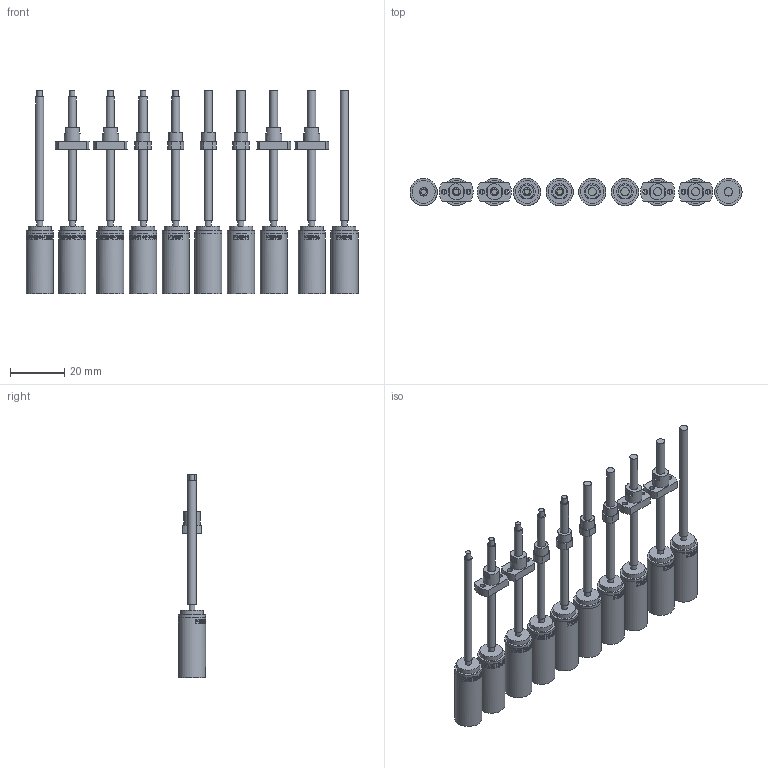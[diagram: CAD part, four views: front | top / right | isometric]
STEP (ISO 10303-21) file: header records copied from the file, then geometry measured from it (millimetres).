
FILE_DESCRIPTION(/* description */ (''),/* implementation_level */ '2;1');
FILE_NAME(/* name */ '10L-5stage_SL_standard_KWNx_KWS1.stp',/* time_stamp */ '2023-05-12T07:01:02+02:00',/* author */ ('DR. FRITZ FAULHABER GmbH & Co. KG'),/* organization */ ('DR. FRITZ FAULHABER GmbH & Co. KG'),/* preprocessor_version */ 'ST-DEVELOPER v16.7',/* originating_system */ 'SIEMENS PLM Software NX 1919',/* authorisation */ '');
FILE_SCHEMA (('AUTOMOTIVE_DESIGN { 1 0 10303 214 3 1 1 1 }'));
Length unit declared in the file: millimetre
Products named in the file (1): H99999996-C-Linear Actuato
Bounding box: 122 x 10 x 74.85 mm (x, y, z)
Volume: 23343.7 mm3; surface area: 16307.2 mm2
Topology: 10 solids, 10 shells, 940 faces, 2267 edges, 1512 vertices
Faces by surface type: plane 484, bspline 245, cylinder 201, cone 10
Full cylindrical faces by diameter (mm): 1.8 x8, 2 x5, 2.2 x10, 3 x18, 3.12 x10, 3.52 x10, 4.959 x10, 5 x4, 6 x14, 8.5 x10, 9.8 x10, 10 x20
Entity records: 45058 total; most frequent: CARTESIAN_POINT 21933, ORIENTED_EDGE 4184, DIRECTION 2779, EDGE_CURVE 2092, VERTEX_POINT 1478, EDGE_LOOP 1262, B_SPLINE_CURVE_WITH_KNOTS 1198, AXIS2_PLACEMENT_3D 1189
